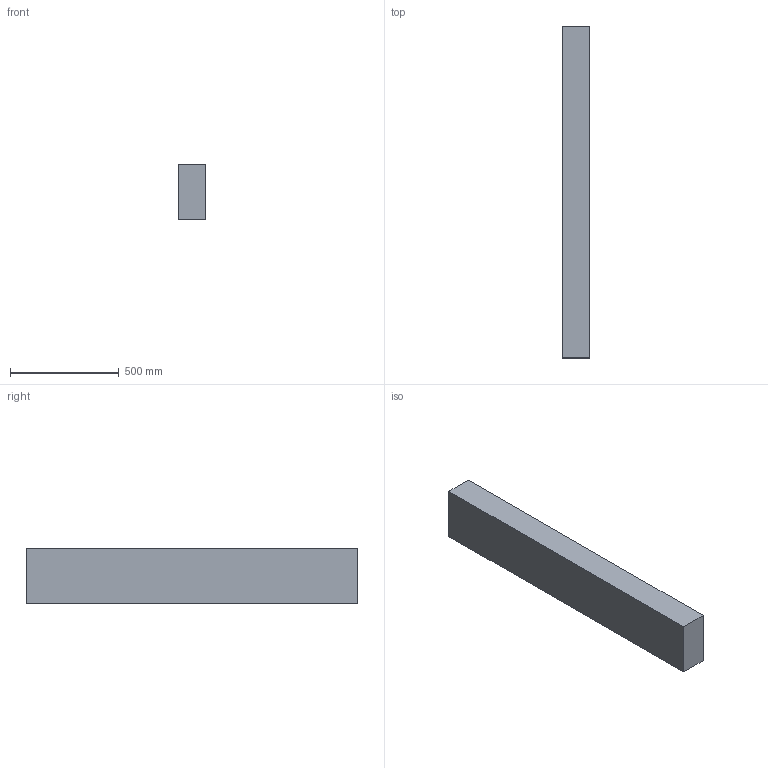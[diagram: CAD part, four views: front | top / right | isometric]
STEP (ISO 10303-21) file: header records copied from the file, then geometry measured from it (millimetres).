
FILE_DESCRIPTION(/* description */ (''),/* implementation_level */ '2;1');
FILE_NAME(/* name */ '5x10x60',/* time_stamp */ '2024-09-20T11:46:18-05:00',/* author */ (''),/* organization */ (''),/* preprocessor_version */ 'ST-DEVELOPER v19.2',/* originating_system */ 'Rhino 8.5',/* authorisation */ '');
FILE_SCHEMA (('CONFIG_CONTROL_DESIGN'));
Length unit declared in the file: inch
Products named in the file (1): Document
Bounding box: 127 x 1524 x 254 mm (x, y, z)
Volume: 49161192 mm3; surface area: 1225804 mm2
Topology: 1 solids, 1 shells, 6 faces, 12 edges, 8 vertices
Faces by surface type: plane 6
Entity records: 226 total; most frequent: CARTESIAN_POINT 40, ORIENTED_EDGE 24, EDGE_CURVE 12, B_SPLINE_CURVE_WITH_KNOTS 12, DIRECTION 10, VERTEX_POINT 8, AXIS2_PLACEMENT_3D 8, ORGANIZATION 7
